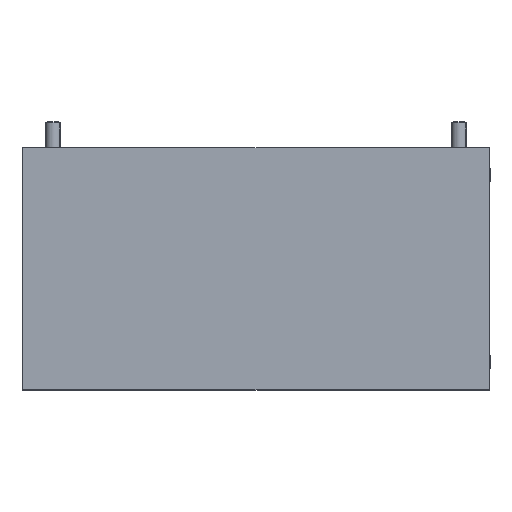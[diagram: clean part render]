
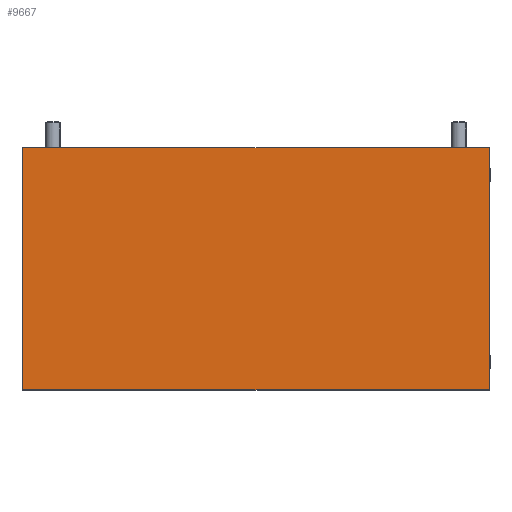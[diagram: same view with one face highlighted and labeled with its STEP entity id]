
A CAD part, top view. The second image highlights one B-rep face of the part: STEP entity #9667.
In plain terms, the highlighted planar face has unit normal (0, 0, 1) as drawn and (0, 0, -1) by its records, which use the part's own axes.
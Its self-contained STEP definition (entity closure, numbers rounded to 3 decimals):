
#131 = ORIENTED_EDGE ( 'NONE', *, *, #12735, .F. ) ;
#133 = AXIS2_PLACEMENT_3D ( 'NONE', #6681, #10817, #1485 ) ;
#318 = CARTESIAN_POINT ( 'NONE',  ( -192.75, 0., -2.5 ) ) ;
#359 = ORIENTED_EDGE ( 'NONE', *, *, #388, .F. ) ;
#382 = VECTOR ( 'NONE', #3574, 1000. ) ;
#388 = EDGE_CURVE ( 'NONE', #12118, #9912, #4227, .T. ) ;
#846 = CARTESIAN_POINT ( 'NONE',  ( 192.75, 0., -2.5 ) ) ;
#1335 = VECTOR ( 'NONE', #4364, 1000. ) ;
#1485 = DIRECTION ( 'NONE',  ( -1., 0., 0. ) ) ;
#1569 = EDGE_CURVE ( 'NONE', #9912, #6902, #12341, .T. ) ;
#2187 = VERTEX_POINT ( 'NONE', #10290 ) ;
#2231 = EDGE_CURVE ( 'NONE', #2187, #12118, #11939, .T. ) ;
#2496 = PLANE ( 'NONE',  #133 ) ;
#3064 = VECTOR ( 'NONE', #6210, 1000. ) ;
#3574 = DIRECTION ( 'NONE',  ( -1., 0., 0. ) ) ;
#4227 = LINE ( 'NONE', #318, #1335 ) ;
#4364 = DIRECTION ( 'NONE',  ( 0., -1., 0. ) ) ;
#4493 = FACE_OUTER_BOUND ( 'NONE', #6015, .T. ) ;
#4752 = ORIENTED_EDGE ( 'NONE', *, *, #2231, .F. ) ;
#6015 = EDGE_LOOP ( 'NONE', ( #131, #10742, #359, #4752 ) ) ;
#6029 = CARTESIAN_POINT ( 'NONE',  ( 192.75, -100., -2.5 ) ) ;
#6210 = DIRECTION ( 'NONE',  ( 1., 0., 0. ) ) ;
#6681 = CARTESIAN_POINT ( 'NONE',  ( 0., 0., -2.5 ) ) ;
#6902 = VERTEX_POINT ( 'NONE', #6029 ) ;
#8315 = VECTOR ( 'NONE', #12161, 1000. ) ;
#8859 = CARTESIAN_POINT ( 'NONE',  ( -192.75, 100., -2.5 ) ) ;
#9042 = CARTESIAN_POINT ( 'NONE',  ( -192.75, -100., -2.5 ) ) ;
#9667 = ADVANCED_FACE ( 'NONE', ( #4493 ), #2496, .T. ) ;
#9704 = CARTESIAN_POINT ( 'NONE',  ( 0., 100., -2.5 ) ) ;
#9912 = VERTEX_POINT ( 'NONE', #9042 ) ;
#10288 = CARTESIAN_POINT ( 'NONE',  ( 0., -100., -2.5 ) ) ;
#10290 = CARTESIAN_POINT ( 'NONE',  ( 192.75, 100., -2.5 ) ) ;
#10742 = ORIENTED_EDGE ( 'NONE', *, *, #1569, .F. ) ;
#10817 = DIRECTION ( 'NONE',  ( 0., 0., -1. ) ) ;
#11939 = LINE ( 'NONE', #9704, #382 ) ;
#12118 = VERTEX_POINT ( 'NONE', #8859 ) ;
#12161 = DIRECTION ( 'NONE',  ( 0., 1., 0. ) ) ;
#12302 = LINE ( 'NONE', #846, #8315 ) ;
#12341 = LINE ( 'NONE', #10288, #3064 ) ;
#12735 = EDGE_CURVE ( 'NONE', #6902, #2187, #12302, .T. ) ;
